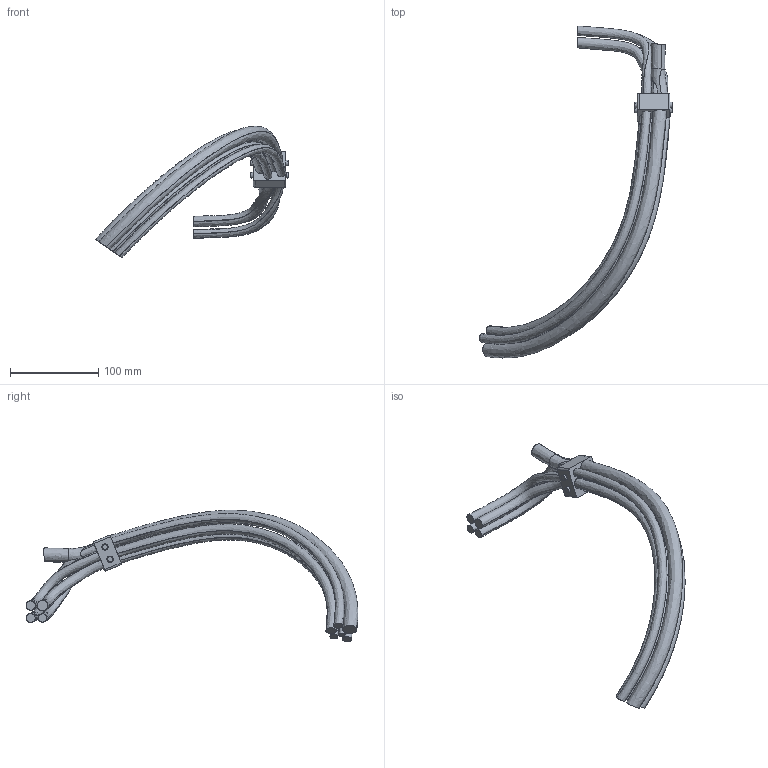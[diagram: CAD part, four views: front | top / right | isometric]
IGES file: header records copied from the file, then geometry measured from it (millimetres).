
Start section: SolidWorks IGES file using analytic representation for surfaces
Global section: file name: C:\Data\SAP_DOC\_2016-Q4_Lättmodeller RobCal\CAD Model_IRB4600_Rev04\IRB4600_45kg-205_IRC5_rev04\IRB4600_45kg-205_IRC5_rev04_IRC5_IGES_j\IRB4600_45kg-205_CABLES_LINK3_rev03.IGS; native system: SolidWorks 2014; preprocessor: SolidWorks 2014; author: SEMAAXM; date: 161206.113159; units: millimetre
Bounding box: 218.78 x 376.01 x 149.03 mm (x, y, z)
Surface area: 105831.4 mm2 (no closed solid volume)
Topology: 0 solids, 0 shells, 66 faces, 1742 edges, 1742 vertices
Faces by surface type: bspline 50, revolution 16
